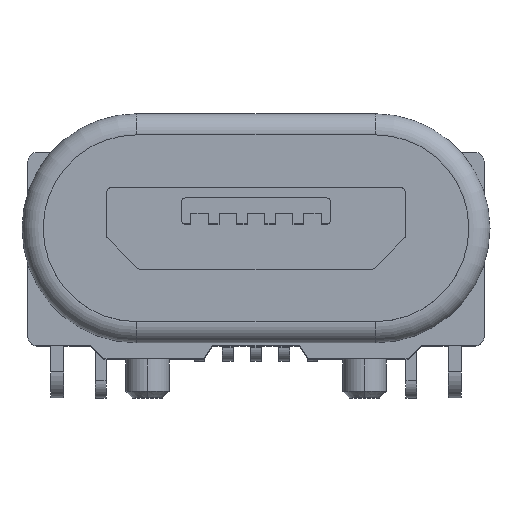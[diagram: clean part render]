
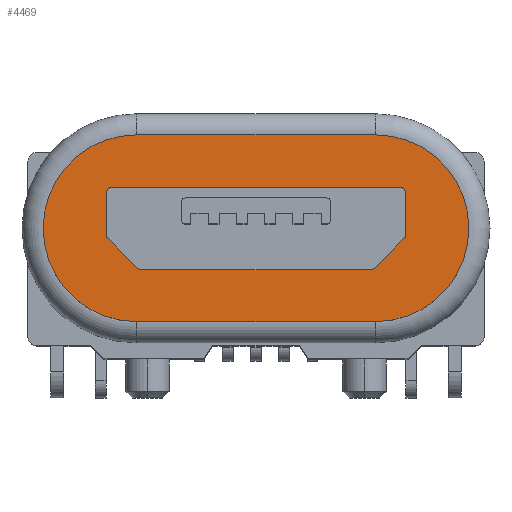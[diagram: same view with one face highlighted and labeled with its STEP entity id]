
A CAD part, top view. The second image highlights one B-rep face of the part: STEP entity #4469.
In plain terms, the highlighted planar face has unit normal (0, 0, 1).
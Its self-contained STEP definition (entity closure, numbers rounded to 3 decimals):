
#231=DIRECTION('',(1.,0.,0.));
#232=VECTOR('',#231,6.6);
#233=CARTESIAN_POINT('',(-3.3,0.95,0.));
#234=LINE('',#233,#232);
#235=CARTESIAN_POINT('',(-3.3,0.8,0.));
#236=DIRECTION('',(0.,0.,-1.));
#237=DIRECTION('',(-1.,0.,0.));
#238=AXIS2_PLACEMENT_3D('',#235,#236,#237);
#240=DIRECTION('',(0.,1.,0.));
#241=VECTOR('',#240,0.934);
#242=CARTESIAN_POINT('',(-3.45,-0.134,0.));
#243=LINE('',#242,#241);
#244=CARTESIAN_POINT('',(-3.3,-0.134,0.));
#245=DIRECTION('',(0.,0.,-1.));
#246=DIRECTION('',(-0.707,-0.707,0.));
#247=AXIS2_PLACEMENT_3D('',#244,#245,#246);
#249=DIRECTION('',(-0.707,0.707,0.));
#250=VECTOR('',#249,0.941);
#251=CARTESIAN_POINT('',(-2.74,-0.906,0.));
#252=LINE('',#251,#250);
#253=CARTESIAN_POINT('',(-2.634,-0.8,0.));
#254=DIRECTION('',(0.,0.,-1.));
#255=DIRECTION('',(0.,-1.,0.));
#256=AXIS2_PLACEMENT_3D('',#253,#254,#255);
#258=DIRECTION('',(-1.,0.,0.));
#259=VECTOR('',#258,5.269);
#260=CARTESIAN_POINT('',(2.634,-0.95,0.));
#261=LINE('',#260,#259);
#262=CARTESIAN_POINT('',(2.634,-0.8,0.));
#263=DIRECTION('',(0.,0.,-1.));
#264=DIRECTION('',(0.707,-0.707,0.));
#265=AXIS2_PLACEMENT_3D('',#262,#263,#264);
#267=DIRECTION('',(-0.707,-0.707,0.));
#268=VECTOR('',#267,0.941);
#269=CARTESIAN_POINT('',(3.406,-0.24,0.));
#270=LINE('',#269,#268);
#271=CARTESIAN_POINT('',(3.3,-0.134,0.));
#272=DIRECTION('',(0.,0.,-1.));
#273=DIRECTION('',(1.,0.,0.));
#274=AXIS2_PLACEMENT_3D('',#271,#272,#273);
#276=DIRECTION('',(0.,-1.,0.));
#277=VECTOR('',#276,0.934);
#278=CARTESIAN_POINT('',(3.45,0.8,0.));
#279=LINE('',#278,#277);
#280=CARTESIAN_POINT('',(3.3,0.8,0.));
#281=DIRECTION('',(0.,0.,-1.));
#282=DIRECTION('',(0.,1.,0.));
#283=AXIS2_PLACEMENT_3D('',#280,#281,#282);
#285=CARTESIAN_POINT('',(2.75,0.,0.));
#286=DIRECTION('',(0.,0.,1.));
#287=DIRECTION('',(0.,-1.,0.));
#288=AXIS2_PLACEMENT_3D('',#285,#286,#287);
#290=CARTESIAN_POINT('',(-2.75,0.,0.));
#291=DIRECTION('',(0.,0.,-1.));
#292=DIRECTION('',(0.,-1.,0.));
#293=AXIS2_PLACEMENT_3D('',#290,#291,#292);
#2930=DIRECTION('',(1.,0.,0.));
#2931=VECTOR('',#2930,5.5);
#2932=CARTESIAN_POINT('',(-2.75,2.15,0.));
#2933=LINE('',#2932,#2931);
#2946=DIRECTION('',(-1.,0.,0.));
#2947=VECTOR('',#2946,5.5);
#2948=CARTESIAN_POINT('',(2.75,-2.15,0.));
#2949=LINE('',#2948,#2947);
#3552=CARTESIAN_POINT('',(2.75,-2.15,0.));
#3553=VERTEX_POINT('',#3552);
#3554=CARTESIAN_POINT('',(-2.75,-2.15,0.));
#3555=VERTEX_POINT('',#3554);
#3560=CARTESIAN_POINT('',(-2.75,2.15,0.));
#3561=VERTEX_POINT('',#3560);
#3564=CARTESIAN_POINT('',(2.75,2.15,0.));
#3565=VERTEX_POINT('',#3564);
#3715=CARTESIAN_POINT('',(-3.3,0.95,0.));
#3716=CARTESIAN_POINT('',(3.3,0.95,0.));
#3717=VERTEX_POINT('',#3715);
#3718=VERTEX_POINT('',#3716);
#3719=CARTESIAN_POINT('',(3.45,0.8,0.));
#3720=VERTEX_POINT('',#3719);
#3721=CARTESIAN_POINT('',(3.45,-0.134,0.));
#3722=VERTEX_POINT('',#3721);
#3723=CARTESIAN_POINT('',(3.406,-0.24,0.));
#3724=VERTEX_POINT('',#3723);
#3725=CARTESIAN_POINT('',(2.74,-0.906,0.));
#3726=VERTEX_POINT('',#3725);
#3727=CARTESIAN_POINT('',(2.634,-0.95,0.));
#3728=VERTEX_POINT('',#3727);
#3729=CARTESIAN_POINT('',(-2.634,-0.95,0.));
#3730=VERTEX_POINT('',#3729);
#3731=CARTESIAN_POINT('',(-2.74,-0.906,0.));
#3732=VERTEX_POINT('',#3731);
#3733=CARTESIAN_POINT('',(-3.406,-0.24,0.));
#3734=VERTEX_POINT('',#3733);
#3735=CARTESIAN_POINT('',(-3.45,-0.134,0.));
#3736=VERTEX_POINT('',#3735);
#3737=CARTESIAN_POINT('',(-3.45,0.8,0.));
#3738=VERTEX_POINT('',#3737);
#4440=CARTESIAN_POINT('',(2.75,0.,0.));
#4441=DIRECTION('',(0.,0.,1.));
#4442=DIRECTION('',(1.,0.,0.));
#4443=AXIS2_PLACEMENT_3D('',#4440,#4441,#4442);
#4444=PLANE('',#4443);
#4446=ORIENTED_EDGE('',*,*,#4445,.F.);
#4448=ORIENTED_EDGE('',*,*,#4447,.T.);
#4450=ORIENTED_EDGE('',*,*,#4449,.T.);
#4452=ORIENTED_EDGE('',*,*,#4451,.T.);
#4453=EDGE_LOOP('',(#4446,#4448,#4450,#4452));
#4454=FACE_OUTER_BOUND('',#4453,.F.);
#4455=ORIENTED_EDGE('',*,*,#4280,.F.);
#4456=ORIENTED_EDGE('',*,*,#4295,.F.);
#4457=ORIENTED_EDGE('',*,*,#4309,.F.);
#4458=ORIENTED_EDGE('',*,*,#4323,.F.);
#4459=ORIENTED_EDGE('',*,*,#4337,.F.);
#4460=ORIENTED_EDGE('',*,*,#4351,.F.);
#4461=ORIENTED_EDGE('',*,*,#4365,.F.);
#4462=ORIENTED_EDGE('',*,*,#4379,.F.);
#4463=ORIENTED_EDGE('',*,*,#4393,.F.);
#4464=ORIENTED_EDGE('',*,*,#4407,.F.);
#4465=ORIENTED_EDGE('',*,*,#4421,.F.);
#4466=ORIENTED_EDGE('',*,*,#4434,.F.);
#4467=EDGE_LOOP('',(#4455,#4456,#4457,#4458,#4459,#4460,#4461,#4462,#4463,#4464,
#4465,#4466));
#4468=FACE_BOUND('',#4467,.F.);
#239=CIRCLE('',#238,0.15);
#248=CIRCLE('',#247,0.15);
#257=CIRCLE('',#256,0.15);
#266=CIRCLE('',#265,0.15);
#275=CIRCLE('',#274,0.15);
#284=CIRCLE('',#283,0.15);
#289=CIRCLE('',#288,2.15);
#294=CIRCLE('',#293,2.15);
#4280=EDGE_CURVE('',#3717,#3718,#234,.T.);
#4295=EDGE_CURVE('',#3738,#3717,#239,.T.);
#4309=EDGE_CURVE('',#3736,#3738,#243,.T.);
#4323=EDGE_CURVE('',#3734,#3736,#248,.T.);
#4337=EDGE_CURVE('',#3732,#3734,#252,.T.);
#4351=EDGE_CURVE('',#3730,#3732,#257,.T.);
#4365=EDGE_CURVE('',#3728,#3730,#261,.T.);
#4379=EDGE_CURVE('',#3726,#3728,#266,.T.);
#4393=EDGE_CURVE('',#3724,#3726,#270,.T.);
#4407=EDGE_CURVE('',#3722,#3724,#275,.T.);
#4421=EDGE_CURVE('',#3720,#3722,#279,.T.);
#4434=EDGE_CURVE('',#3718,#3720,#284,.T.);
#4445=EDGE_CURVE('',#3553,#3565,#289,.T.);
#4447=EDGE_CURVE('',#3553,#3555,#2949,.T.);
#4449=EDGE_CURVE('',#3555,#3561,#294,.T.);
#4451=EDGE_CURVE('',#3561,#3565,#2933,.T.);
#4469=ADVANCED_FACE('',(#4454,#4468),#4444,.T.);
